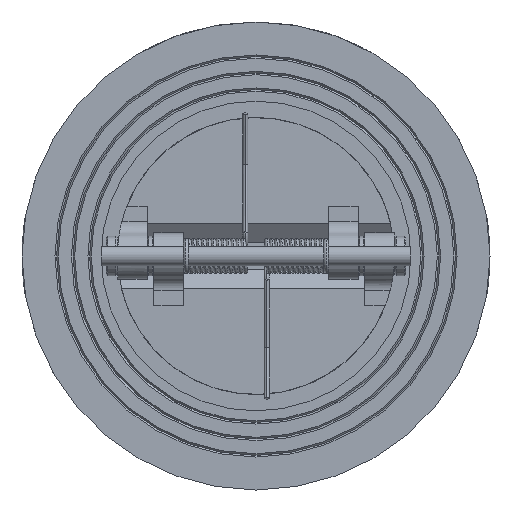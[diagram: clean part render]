
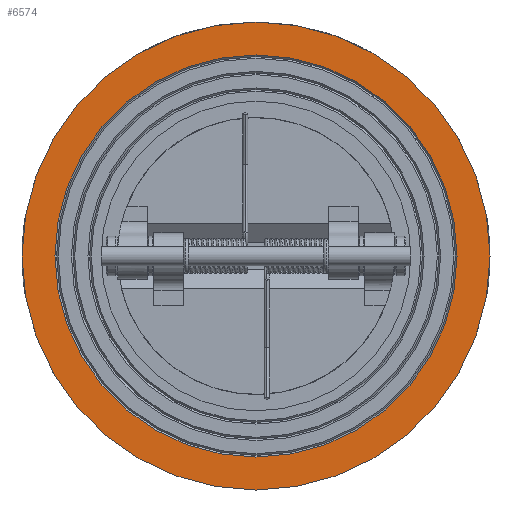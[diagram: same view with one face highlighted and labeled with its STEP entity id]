
A CAD part, left-side view. The second image highlights one B-rep face of the part: STEP entity #6574.
In plain terms, the highlighted planar face has unit normal (-1, 0, 0).
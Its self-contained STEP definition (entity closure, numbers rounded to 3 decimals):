
#1078 = CONICAL_SURFACE('',#1079,61.,0.785);
#1079 = AXIS2_PLACEMENT_3D('',#1080,#1081,#1082);
#1080 = CARTESIAN_POINT('',(-28.,36.,0.));
#1081 = DIRECTION('',(-1.,0.,0.));
#1082 = DIRECTION('',(0.,-1.,0.));
#1115 = VERTEX_POINT('',#1116);
#1116 = CARTESIAN_POINT('',(-28.,-25.,0.));
#1123 = CONICAL_SURFACE('',#1124,61.,0.785);
#1124 = AXIS2_PLACEMENT_3D('',#1125,#1126,#1127);
#1125 = CARTESIAN_POINT('',(-28.,36.,0.));
#1126 = DIRECTION('',(-1.,0.,0.));
#1127 = DIRECTION('',(0.,-1.,0.));
#1142 = EDGE_CURVE('',#1143,#1115,#1145,.T.);
#1143 = VERTEX_POINT('',#1144);
#1144 = CARTESIAN_POINT('',(-28.,97.,0.));
#1145 = SURFACE_CURVE('',#1146,(#1151,#1158),.PCURVE_S1.);
#1146 = CIRCLE('',#1147,61.);
#1147 = AXIS2_PLACEMENT_3D('',#1148,#1149,#1150);
#1148 = CARTESIAN_POINT('',(-28.,36.,0.));
#1149 = DIRECTION('',(-1.,0.,0.));
#1150 = DIRECTION('',(0.,-1.,0.));
#1151 = PCURVE('',#1123,#1152);
#1152 = DEFINITIONAL_REPRESENTATION('',(#1153),#1157);
#1153 = LINE('',#1154,#1155);
#1154 = CARTESIAN_POINT('',(0.,0.));
#1155 = VECTOR('',#1156,1.);
#1156 = DIRECTION('',(1.,0.));
#1157 = ( GEOMETRIC_REPRESENTATION_CONTEXT(2) 
PARAMETRIC_REPRESENTATION_CONTEXT() REPRESENTATION_CONTEXT('2D SPACE',''
  ) );
#1158 = PCURVE('',#1159,#1164);
#1159 = PLANE('',#1160);
#1160 = AXIS2_PLACEMENT_3D('',#1161,#1162,#1163);
#1161 = CARTESIAN_POINT('',(-28.,36.,47.));
#1162 = DIRECTION('',(-1.,0.,0.));
#1163 = DIRECTION('',(0.,-1.,0.));
#1164 = DEFINITIONAL_REPRESENTATION('',(#1165),#1169);
#1165 = CIRCLE('',#1166,61.);
#1166 = AXIS2_PLACEMENT_2D('',#1167,#1168);
#1167 = CARTESIAN_POINT('',(0.,-47.));
#1168 = DIRECTION('',(1.,0.));
#1169 = ( GEOMETRIC_REPRESENTATION_CONTEXT(2) 
PARAMETRIC_REPRESENTATION_CONTEXT() REPRESENTATION_CONTEXT('2D SPACE',''
  ) );
#1671 = CYLINDRICAL_SURFACE('',#1672,71.);
#1672 = AXIS2_PLACEMENT_3D('',#1673,#1674,#1675);
#1673 = CARTESIAN_POINT('',(-28.502,36.,0.));
#1674 = DIRECTION('',(-1.,0.,0.));
#1675 = DIRECTION('',(0.,-1.,0.));
#1800 = CYLINDRICAL_SURFACE('',#1801,71.);
#1801 = AXIS2_PLACEMENT_3D('',#1802,#1803,#1804);
#1802 = CARTESIAN_POINT('',(-28.502,36.,0.));
#1803 = DIRECTION('',(-1.,0.,0.));
#1804 = DIRECTION('',(0.,-1.,0.));
#5997 = VERTEX_POINT('',#5998);
#5998 = CARTESIAN_POINT('',(-28.,107.,0.));
#6019 = EDGE_CURVE('',#6020,#5997,#6022,.T.);
#6020 = VERTEX_POINT('',#6021);
#6021 = CARTESIAN_POINT('',(-28.,-35.,0.));
#6022 = SURFACE_CURVE('',#6023,(#6028,#6035),.PCURVE_S1.);
#6023 = CIRCLE('',#6024,71.);
#6024 = AXIS2_PLACEMENT_3D('',#6025,#6026,#6027);
#6025 = CARTESIAN_POINT('',(-28.,36.,0.));
#6026 = DIRECTION('',(-1.,0.,0.));
#6027 = DIRECTION('',(0.,-1.,0.));
#6028 = PCURVE('',#1671,#6029);
#6029 = DEFINITIONAL_REPRESENTATION('',(#6030),#6034);
#6030 = LINE('',#6031,#6032);
#6031 = CARTESIAN_POINT('',(0.,-0.502));
#6032 = VECTOR('',#6033,1.);
#6033 = DIRECTION('',(1.,0.));
#6034 = ( GEOMETRIC_REPRESENTATION_CONTEXT(2) 
PARAMETRIC_REPRESENTATION_CONTEXT() REPRESENTATION_CONTEXT('2D SPACE',''
  ) );
#6035 = PCURVE('',#1159,#6036);
#6036 = DEFINITIONAL_REPRESENTATION('',(#6037),#6041);
#6037 = CIRCLE('',#6038,71.);
#6038 = AXIS2_PLACEMENT_2D('',#6039,#6040);
#6039 = CARTESIAN_POINT('',(0.,-47.));
#6040 = DIRECTION('',(1.,0.));
#6041 = ( GEOMETRIC_REPRESENTATION_CONTEXT(2) 
PARAMETRIC_REPRESENTATION_CONTEXT() REPRESENTATION_CONTEXT('2D SPACE',''
  ) );
#6574 = ADVANCED_FACE('',(#6575,#6600),#1159,.T.);
#6575 = FACE_BOUND('',#6576,.T.);
#6576 = EDGE_LOOP('',(#6577,#6578));
#6577 = ORIENTED_EDGE('',*,*,#6019,.T.);
#6578 = ORIENTED_EDGE('',*,*,#6579,.T.);
#6579 = EDGE_CURVE('',#5997,#6020,#6580,.T.);
#6580 = SURFACE_CURVE('',#6581,(#6586,#6593),.PCURVE_S1.);
#6581 = CIRCLE('',#6582,71.);
#6582 = AXIS2_PLACEMENT_3D('',#6583,#6584,#6585);
#6583 = CARTESIAN_POINT('',(-28.,36.,0.));
#6584 = DIRECTION('',(-1.,0.,0.));
#6585 = DIRECTION('',(0.,-1.,0.));
#6586 = PCURVE('',#1159,#6587);
#6587 = DEFINITIONAL_REPRESENTATION('',(#6588),#6592);
#6588 = CIRCLE('',#6589,71.);
#6589 = AXIS2_PLACEMENT_2D('',#6590,#6591);
#6590 = CARTESIAN_POINT('',(0.,-47.));
#6591 = DIRECTION('',(1.,0.));
#6592 = ( GEOMETRIC_REPRESENTATION_CONTEXT(2) 
PARAMETRIC_REPRESENTATION_CONTEXT() REPRESENTATION_CONTEXT('2D SPACE',''
  ) );
#6593 = PCURVE('',#1800,#6594);
#6594 = DEFINITIONAL_REPRESENTATION('',(#6595),#6599);
#6595 = LINE('',#6596,#6597);
#6596 = CARTESIAN_POINT('',(0.,-0.502));
#6597 = VECTOR('',#6598,1.);
#6598 = DIRECTION('',(1.,0.));
#6599 = ( GEOMETRIC_REPRESENTATION_CONTEXT(2) 
PARAMETRIC_REPRESENTATION_CONTEXT() REPRESENTATION_CONTEXT('2D SPACE',''
  ) );
#6600 = FACE_BOUND('',#6601,.T.);
#6601 = EDGE_LOOP('',(#6602,#6624));
#6602 = ORIENTED_EDGE('',*,*,#6603,.F.);
#6603 = EDGE_CURVE('',#1115,#1143,#6604,.T.);
#6604 = SURFACE_CURVE('',#6605,(#6610,#6617),.PCURVE_S1.);
#6605 = CIRCLE('',#6606,61.);
#6606 = AXIS2_PLACEMENT_3D('',#6607,#6608,#6609);
#6607 = CARTESIAN_POINT('',(-28.,36.,0.));
#6608 = DIRECTION('',(-1.,0.,0.));
#6609 = DIRECTION('',(0.,-1.,0.));
#6610 = PCURVE('',#1159,#6611);
#6611 = DEFINITIONAL_REPRESENTATION('',(#6612),#6616);
#6612 = CIRCLE('',#6613,61.);
#6613 = AXIS2_PLACEMENT_2D('',#6614,#6615);
#6614 = CARTESIAN_POINT('',(0.,-47.));
#6615 = DIRECTION('',(1.,0.));
#6616 = ( GEOMETRIC_REPRESENTATION_CONTEXT(2) 
PARAMETRIC_REPRESENTATION_CONTEXT() REPRESENTATION_CONTEXT('2D SPACE',''
  ) );
#6617 = PCURVE('',#1078,#6618);
#6618 = DEFINITIONAL_REPRESENTATION('',(#6619),#6623);
#6619 = LINE('',#6620,#6621);
#6620 = CARTESIAN_POINT('',(0.,0.));
#6621 = VECTOR('',#6622,1.);
#6622 = DIRECTION('',(1.,0.));
#6623 = ( GEOMETRIC_REPRESENTATION_CONTEXT(2) 
PARAMETRIC_REPRESENTATION_CONTEXT() REPRESENTATION_CONTEXT('2D SPACE',''
  ) );
#6624 = ORIENTED_EDGE('',*,*,#1142,.F.);
